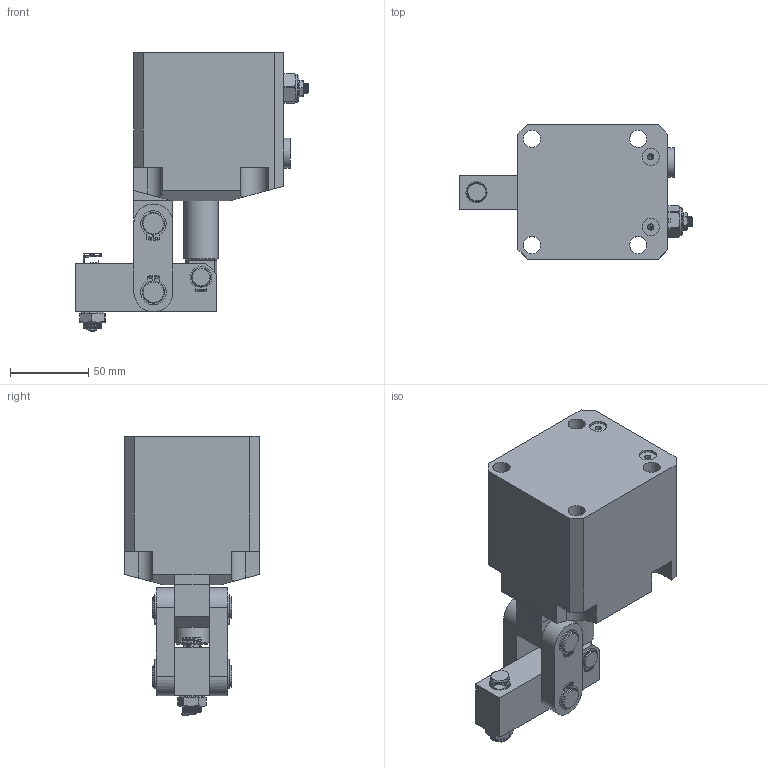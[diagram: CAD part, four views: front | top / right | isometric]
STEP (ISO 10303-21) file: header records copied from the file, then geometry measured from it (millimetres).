
FILE_DESCRIPTION(/* description */ ('STEP AP214'),/* implementation_level */ '2;1');
FILE_NAME(/* name */ 'D:\Vault_2016\Projekty\Clamptek\Hydraulic\CBLU\CBLU-55\STEP\CBLU-55G.stp',/* time_stamp */ '2021-05-06T12:54:07+02:00',/* author */ ('user'),/* organization */ (''),/* preprocessor_version */ 'ST-DEVELOPER v18.1',/* originating_system */ 'Autodesk Inventor 2021',/* authorisation */ '');
FILE_SCHEMA (('AUTOMOTIVE_DESIGN { 1 0 10303 214 3 1 1 }'));
Products named in the file (13): CBLU-55G; CBLU-55C±¾Ìå_1_1; duanxiao; huosaigan_2_1; yabi; liangan; changxiao; kahuang; kahuang01; luogan; luomu; ÄÚÁù½Ç¶ÂÍ·×
îÐÂ1-4_1; CZL20µ÷ËÙ·§_1_1_1
Assembly tree (18 placements, depth 2):
  CBLU-55G
    CBLU-55C±¾Ìå_1_1
    changxiao  x2
    duanxiao
    huosaigan_2_1
    liangan  x2
    yabi
    kahuang  x4
    kahuang01  x2
    luogan
    luomu
    ÄÚÁù½Ç¶ÂÍ·×
îÐÂ1-4_1
    CZL20µ÷ËÙ·§_1_1_1
Bounding box: 149.4 x 86 x 178.66 mm (x, y, z)
Volume: 692880.9 mm3; surface area: 133586.5 mm2
Topology: 19 solids, 120 shells, 641 faces, 1733 edges, 1227 vertices
Faces by surface type: cylinder 325, plane 193, bspline 79, cone 44
Full cylindrical faces by diameter (mm): 1.479 x4, 1.725 x8, 2.5 x3, 4 x3, 5.3 x1, 6 x14, 7.5 x1, 8 x1, 11 x27, 11.5 x7, 11.9 x1, 12 x7, 13 x5, 14 x12, 16.8 x1, 18 x1, 19 x1, 22 x2, 33.825 x1, 34.766 x1, 55 x2
Entity records: 96709 total; most frequent: CARTESIAN_POINT 83333, ORIENTED_EDGE 2675, DIRECTION 2073, EDGE_CURVE 1510, VERTEX_POINT 1085, AXIS2_PLACEMENT_3D 759, EDGE_LOOP 623, B_SPLINE_CURVE_WITH_KNOTS 588
